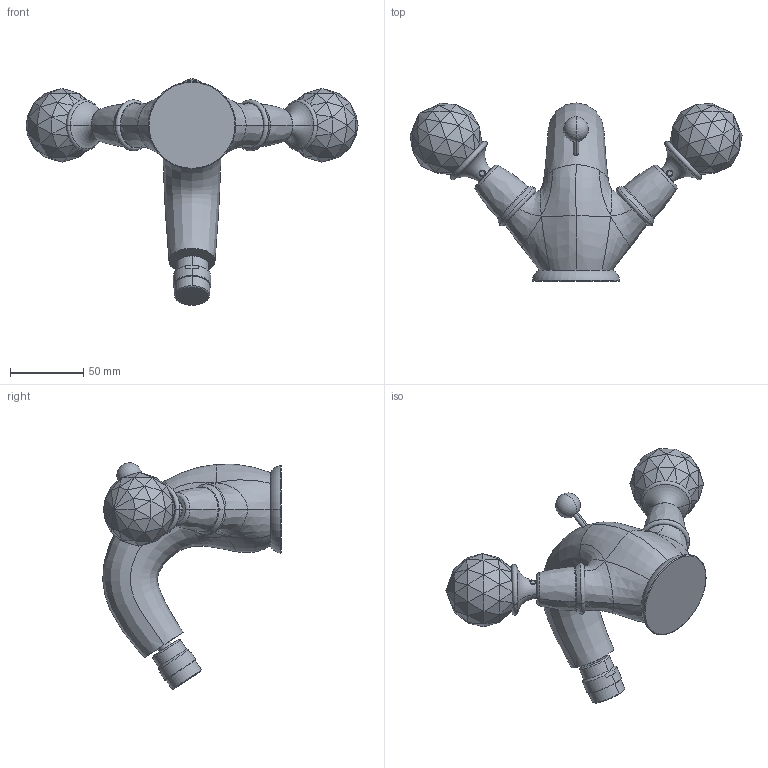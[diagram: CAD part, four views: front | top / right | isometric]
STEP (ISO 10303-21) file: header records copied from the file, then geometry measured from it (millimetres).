
FILE_DESCRIPTION((''),'2;1');
FILE_NAME('F5092_2C_FILE_3D','2013-07-18T',('ivanv'),(''),'PRO/ENGINEER BY PARAMETRIC TECHNOLOGY CORPORATION, 2012130','PRO/ENGINEER BY PARAMETRIC TECHNOLOGY CORPORATION, 2012130','');
FILE_SCHEMA(('CONFIG_CONTROL_DESIGN'));
Length unit declared in the file: millimetre
Products named in the file (1): F5092_2C_FILE_3D
Bounding box: 226.35 x 121.59 x 154.39 mm (x, y, z)
Volume: 501193.8 mm3; surface area: 61992.5 mm2
Topology: 3 solids, 4 shells, 375 faces, 675 edges, 317 vertices
Faces by surface type: plane 264, bspline 34, cylinder 29, torus 28, cone 18, sphere 2
Entity records: 14488 total; most frequent: CARTESIAN_POINT 7547, DIRECTION 1432, ORIENTED_EDGE 1346, EDGE_CURVE 673, AXIS2_PLACEMENT_3D 498, VECTOR 436, LINE 436, EDGE_LOOP 386
